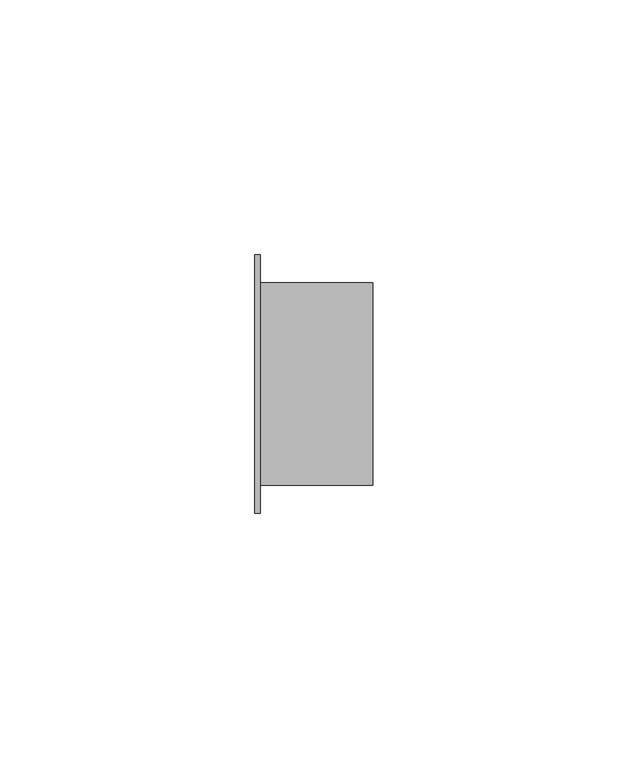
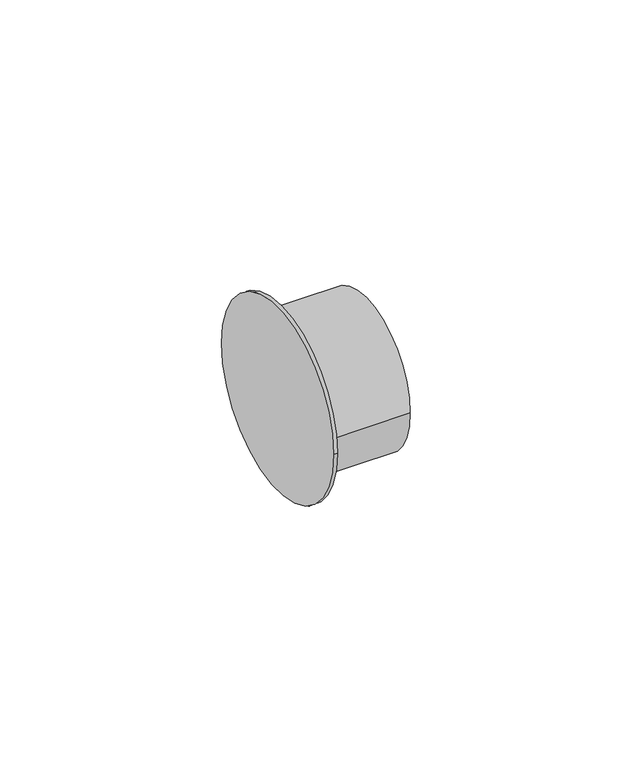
"""IFC4 building model written with IfcOpenShell, lengths in millimetres: pipe fitting geometry, Bucha de redução reta - Soldada - CU : Padrão."""

from ifc_helpers import new_model, si_unit, frame, origin, place, context, project, spatial, circle_curve, source, transform, mapped, element, save
from ifc_brep_helpers import plane_surface, cylinder_surface, advanced_brep


def pipe_fitting_5c29a625(model_context):
    return source(origin(), model_context, "Body", "AdvancedBrep", [
        advanced_brep(
        [(0.0, -25.3, 0.0), (0.0, 25.3, 0.0), (1.0, -25.3, 0.0), (1.0, 25.3, 0.0), (1.0, -19.831, 0.0), (1.0, 19.831, 0.0), (23.107, -19.831, 0.0), (23.107, 19.831, 0.0)],
        [
            (0, 1, circle_curve(frame((0.0, 0.0, 0.0), z_axis=(-1.0, 0.0, 0.0), x_axis=(0.0, 1.0, 0.0)), 25.3)),
            (1, 0, circle_curve(frame((0.0, 0.0, 0.0), z_axis=(-1.0, 0.0, 0.0), x_axis=(0.0, 1.0, 0.0)), 25.3)),
            (2, 3, circle_curve(frame((1.0, 0.0, 0.0), z_axis=(1.0, 0.0, 0.0), x_axis=(0.0, 1.0, 0.0)), 25.3)),
            (3, 2, circle_curve(frame((1.0, 0.0, 0.0), z_axis=(1.0, 0.0, 0.0), x_axis=(0.0, 1.0, 0.0)), 25.3)),
            (4, 5, circle_curve(frame((1.0, 0.0, 0.0), z_axis=(-1.0, 0.0, 0.0), x_axis=(0.0, 1.0, 0.0)), 19.831)),
            (5, 4, circle_curve(frame((1.0, 0.0, 0.0), z_axis=(-1.0, 0.0, 0.0), x_axis=(0.0, 1.0, 0.0)), 19.831)),
            (0, 2),
            (3, 1),
            (6, 7, circle_curve(frame((23.107, 0.0, 0.0), z_axis=(1.0, 0.0, 0.0), x_axis=(0.0, 1.0, 0.0)), 19.831)),
            (7, 6, circle_curve(frame((23.107, 0.0, 0.0), z_axis=(1.0, 0.0, 0.0), x_axis=(0.0, 1.0, 0.0)), 19.831)),
            (7, 5),
            (4, 6),
        ],
        [
            plane_surface(frame((0.0, 0.0, 0.0), z_axis=(-1.0, 0.0, 0.0), x_axis=(0.0, 0.0, 1.0))),
            plane_surface(frame((1.0, 0.0, 0.0), z_axis=(1.0, 0.0, 0.0), x_axis=(0.0, 0.0, 1.0))),
            cylinder_surface(frame((0.0, 0.0, 0.0), z_axis=(-1.0, 0.0, 0.0), x_axis=(0.0, 1.0, 0.0)), 25.3),
            plane_surface(frame((23.107, 0.0, 0.0), z_axis=(1.0, 0.0, 0.0), x_axis=(0.0, 0.0, 1.0))),
            cylinder_surface(frame((1.0, 0.0, 0.0), z_axis=(-1.0, 0.0, 0.0), x_axis=(0.0, 1.0, 0.0)), 19.831),
        ],
        [
            (0, [[1, 2]]),
            (1, [[3, 4], [5, 6]]),
            (2, [[-1, 7, -4, 8]]),
            (2, [[-2, -8, -3, -7]]),
            (3, [[9, 10]]),
            (4, [[-10, 11, -5, 12]]),
            (4, [[-9, -12, -6, -11]]),
        ],
    ),
    ])


if __name__ == "__main__":
    model = new_model("IFC4")
    model_context = context("Model", 3, world=origin())
    ifc_project = project(units=[si_unit("LENGTHUNIT", "METRE", prefix="MILLI")], contexts=[model_context])
    site = spatial("IfcSite", under=ifc_project)
    building = spatial("IfcBuilding", under=site)
    placement = place(None, origin())
    pipe_fitting_shape = pipe_fitting_5c29a625(model_context)
    element("IfcPipeFitting", 1, ObjectType="Bucha de redução reta - Soldada - CU : Padrão", at=placement, inside=building, context=model_context, shape_type="MappedRepresentation", body=[
        mapped(pipe_fitting_shape, transform((0.0, 0.0, 0.0), x_axis=(1.0, 0.0, 0.0), y_axis=(0.0, 1.0, 0.0), z_axis=(0.0, 0.0, 1.0))),
    ])
    save(model, "model.ifc")
